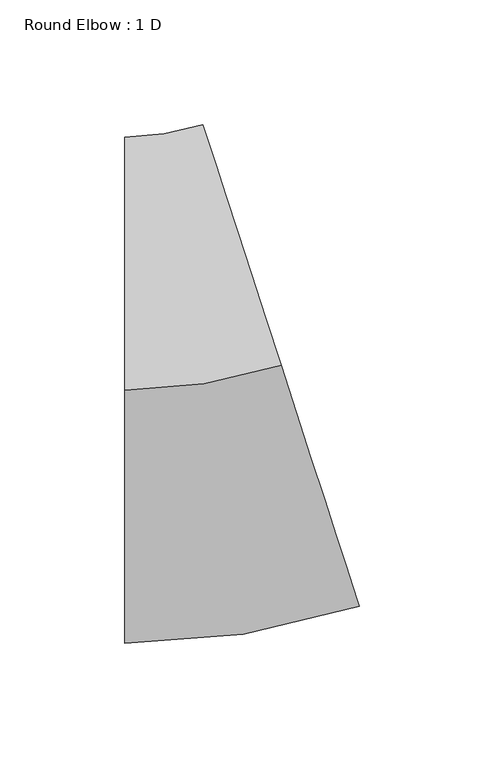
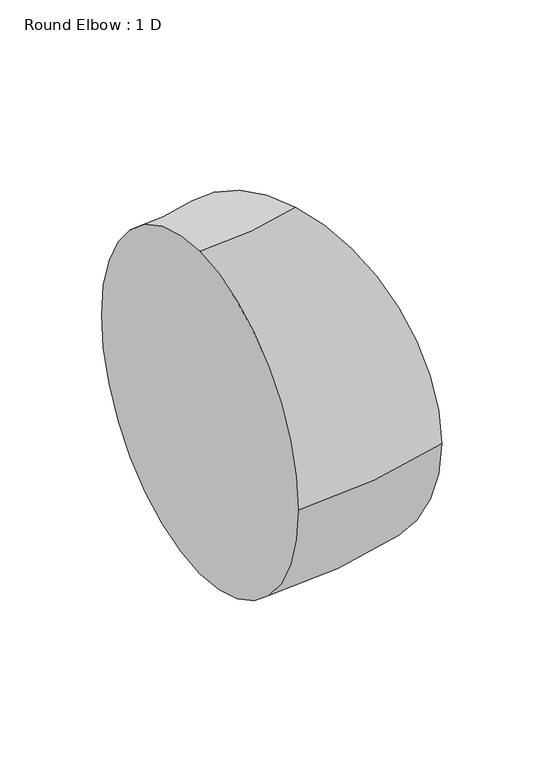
"""IFC4 building model written with IfcOpenShell, lengths in millimetres: duct fitting geometry, Round Elbow : 1 D."""

from ifc_helpers import new_model, si_unit, point, frame, origin, place, context, project, spatial, circle_curve, ellipse_curve, trimmed, source, transform, mapped, element, save
from ifc_brep_helpers import plane_surface, revolved_surface, advanced_brep


def round_elbow_1_d_adb29f0a(model_context):
    return source(origin(), model_context, "Body", "AdvancedBrep", [
        advanced_brep(
        [(-32.1837183, 0.0, 101.6), (-32.1837183, 101.6, 0.0), (-32.1837183, 0.0, -101.6), (-32.1837183, -101.6, 0.0), (30.608535, 9.9453159, 101.6), (62.0046616, -86.6820262, 0.0), (30.608535, 9.9453159, -101.6), (-0.7875916, 106.5726579, 0.0)],
        [
            (0, 1, circle_curve(frame((-32.1837183, 0.0, 0.0), z_axis=(-1.0, 0.0, 0.0), x_axis=(0.0, 1.0, 0.0)), 101.6)),
            (1, 2, circle_curve(frame((-32.1837183, 0.0, 0.0), z_axis=(-1.0, 0.0, 0.0), x_axis=(0.0, 1.0, 0.0)), 101.6)),
            (2, 3, circle_curve(frame((-32.1837183, 0.0, 0.0), z_axis=(-1.0, 0.0, 0.0), x_axis=(0.0, 1.0, 0.0)), 101.6)),
            (3, 0, circle_curve(frame((-32.1837183, 0.0, 0.0), z_axis=(-1.0, 0.0, 0.0), x_axis=(0.0, 1.0, 0.0)), 101.6)),
            (4, 5, circle_curve(frame((30.608535, 9.9453159, 0.0), z_axis=(0.9510565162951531, 0.3090169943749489, 0.0), x_axis=(-0.3090169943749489, 0.9510565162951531, 0.0)), 101.6)),
            (5, 6, circle_curve(frame((30.608535, 9.9453159, 0.0), z_axis=(0.9510565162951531, 0.3090169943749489, 0.0), x_axis=(-0.3090169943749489, 0.9510565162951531, 0.0)), 101.6)),
            (6, 7, circle_curve(frame((30.608535, 9.9453159, 0.0), z_axis=(0.9510565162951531, 0.3090169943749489, 0.0), x_axis=(-0.3090169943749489, 0.9510565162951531, 0.0)), 101.6)),
            (7, 4, circle_curve(frame((30.608535, 9.9453159, 0.0), z_axis=(0.9510565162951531, 0.3090169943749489, 0.0), x_axis=(-0.3090169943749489, 0.9510565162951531, 0.0)), 101.6)),
            (7, 1, circle_curve(frame((-32.1837183, 203.2, 0.0), z_axis=(0.0, 0.0, -1.0), x_axis=(0.0, -1.0, 0.0)), 101.6)),
            (0, 4, circle_curve(frame((-32.1837183, 203.2, 101.6), z_axis=(0.0, 0.0, 1.0), x_axis=(0.0, -1.0, 0.0)), 203.2)),
            (6, 2, circle_curve(frame((-32.1837183, 203.2, -101.6), z_axis=(0.0, 0.0, -1.0), x_axis=(0.0, -1.0, 0.0)), 203.2)),
            (5, 3, circle_curve(frame((-32.1837183, 203.2, 0.0), z_axis=(0.0, 0.0, -1.0), x_axis=(0.0, -1.0, 0.0)), 304.8)),
        ],
        [
            plane_surface(frame((-32.1837183, 0.0, 0.0), z_axis=(-1.0, 0.0, 0.0), x_axis=(0.0, 0.0, 1.0))),
            plane_surface(frame((30.608535, 9.9453159, 0.0), z_axis=(0.9510565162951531, 0.30901699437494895, 0.0), x_axis=(0.0, 0.0, 1.0))),
            revolved_surface(trimmed(ellipse_curve(frame((-32.1837183, 0.0, 0.0), z_axis=(-1.0, 0.0, 0.0), x_axis=(0.0, 1.0, 0.0)), 101.6, 101.6), [point((-32.1837183, 0.0, 101.6))], [point((-32.1837183, 101.6, 0.0))], True, "CARTESIAN"), (-32.1837183, 203.2, 0.0), (0.0, 0.0, 1.0)),
            revolved_surface(trimmed(ellipse_curve(frame((-32.1837183, 0.0, 0.0), z_axis=(-1.0, 0.0, 0.0), x_axis=(0.0, 1.0, 0.0)), 101.6, 101.6), [point((-32.1837183, 101.6, 0.0))], [point((-32.1837183, 0.0, -101.6))], True, "CARTESIAN"), (-32.1837183, 203.2, 0.0), (0.0, 0.0, 1.0)),
            revolved_surface(trimmed(ellipse_curve(frame((-32.1837183, 0.0, 0.0), z_axis=(-1.0, 0.0, 0.0), x_axis=(0.0, 1.0, 0.0)), 101.6, 101.6), [point((-32.1837183, 0.0, -101.6))], [point((-32.1837183, -101.6, 0.0))], True, "CARTESIAN"), (-32.1837183, 203.2, 0.0), (0.0, 0.0, 1.0)),
            revolved_surface(trimmed(ellipse_curve(frame((-32.1837183, 0.0, 0.0), z_axis=(-1.0, 0.0, 0.0), x_axis=(0.0, 1.0, 0.0)), 101.6, 101.6), [point((-32.1837183, -101.6, 0.0))], [point((-32.1837183, 0.0, 101.6))], True, "CARTESIAN"), (-32.1837183, 203.2, 0.0), (0.0, 0.0, 1.0)),
        ],
        [
            (0, [[1, 2, 3, 4]]),
            (1, [[5, 6, 7, 8]]),
            (2, [[9, -1, 10, -8]]),
            (3, [[11, -2, -9, -7]]),
            (4, [[12, -3, -11, -6]]),
            (5, [[-10, -4, -12, -5]]),
        ],
    ),
    ])


if __name__ == "__main__":
    model = new_model("IFC4")
    model_context = context("Model", 3, world=origin())
    ifc_project = project(units=[si_unit("LENGTHUNIT", "METRE", prefix="MILLI")], contexts=[model_context])
    site = spatial("IfcSite", under=ifc_project)
    building = spatial("IfcBuilding", under=site)
    placement = place(None, origin())
    round_elbow_1_d_shape = round_elbow_1_d_adb29f0a(model_context)
    element("IfcDuctFitting", 1, ObjectType="Round Elbow : 1 D", at=placement, inside=building, context=model_context, shape_type="MappedRepresentation", body=[
        mapped(round_elbow_1_d_shape, transform((0.0, 0.0, 0.0), x_axis=(1.0, 0.0, 0.0), y_axis=(0.0, 1.0, 0.0), z_axis=(0.0, 0.0, 1.0))),
    ])
    save(model, "model.ifc")
